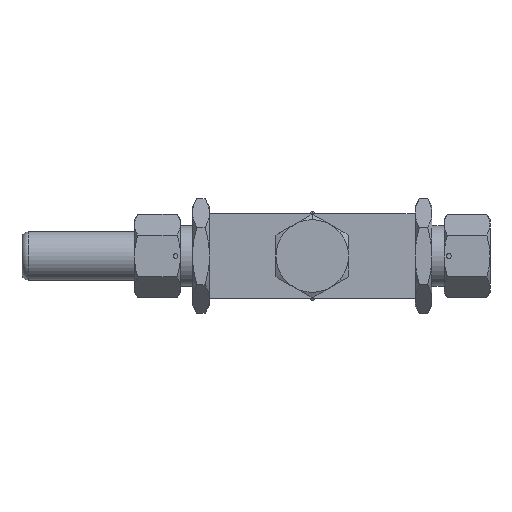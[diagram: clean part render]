
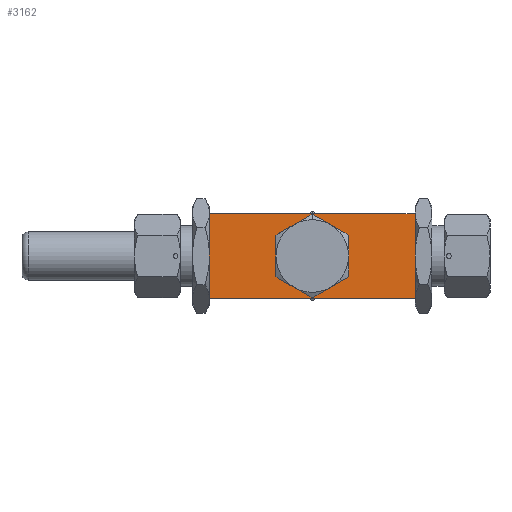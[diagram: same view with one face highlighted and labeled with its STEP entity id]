
A CAD part, front view. The second image highlights one B-rep face of the part: STEP entity #3162.
In plain terms, the highlighted planar face has unit normal (0, -1, 0).
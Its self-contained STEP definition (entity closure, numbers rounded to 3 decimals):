
#150 = CARTESIAN_POINT ( 'NONE',  ( 7.5, -32.5, -12.99 ) ) ;
#185 = DIRECTION ( 'NONE',  ( 0., 0., -1. ) ) ;
#189 = EDGE_CURVE ( 'NONE', #5895, #2622, #1579, .T. ) ;
#241 = AXIS2_PLACEMENT_3D ( 'NONE', #3808, #2277, #2186 ) ;
#296 = DIRECTION ( 'NONE',  ( 0., -1., 0. ) ) ;
#321 = PLANE ( 'NONE',  #5505 ) ;
#347 = CARTESIAN_POINT ( 'NONE',  ( -15., -32.5, 0. ) ) ;
#362 = FACE_BOUND ( 'NONE', #1242, .T. ) ;
#370 = CARTESIAN_POINT ( 'NONE',  ( -42.5, -32.5, 17.5 ) ) ;
#388 = ORIENTED_EDGE ( 'NONE', *, *, #4609, .F. ) ;
#422 = CARTESIAN_POINT ( 'NONE',  ( 42.5, -32.5, 17.5 ) ) ;
#470 = CIRCLE ( 'NONE', #241, 15. ) ;
#565 = CARTESIAN_POINT ( 'NONE',  ( 0., -32.5, 0. ) ) ;
#658 = ORIENTED_EDGE ( 'NONE', *, *, #5278, .T. ) ;
#700 = CARTESIAN_POINT ( 'NONE',  ( 0., -32.5, 0. ) ) ;
#731 = EDGE_CURVE ( 'NONE', #5678, #3883, #4653, .T. ) ;
#796 = DIRECTION ( 'NONE',  ( 0., 0., 1. ) ) ;
#818 = DIRECTION ( 'NONE',  ( 0., -1., 0. ) ) ;
#833 = ORIENTED_EDGE ( 'NONE', *, *, #3568, .F. ) ;
#876 = VECTOR ( 'NONE', #5578, 1000. ) ;
#879 = EDGE_CURVE ( 'NONE', #3577, #6365, #4544, .T. ) ;
#896 = DIRECTION ( 'NONE',  ( 0., 1., 0. ) ) ;
#910 = VECTOR ( 'NONE', #3368, 1000. ) ;
#955 = CARTESIAN_POINT ( 'NONE',  ( -7.5, -32.5, -12.99 ) ) ;
#982 = VERTEX_POINT ( 'NONE', #5788 ) ;
#1028 = DIRECTION ( 'NONE',  ( 0., 0., -1. ) ) ;
#1065 = ORIENTED_EDGE ( 'NONE', *, *, #5363, .F. ) ;
#1171 = ORIENTED_EDGE ( 'NONE', *, *, #879, .F. ) ;
#1211 = AXIS2_PLACEMENT_3D ( 'NONE', #1385, #818, #4833 ) ;
#1242 = EDGE_LOOP ( 'NONE', ( #4364, #4513, #388, #3025, #1065, #1171, #833 ) ) ;
#1378 = EDGE_LOOP ( 'NONE', ( #658, #5011, #2046, #3398 ) ) ;
#1385 = CARTESIAN_POINT ( 'NONE',  ( 0., -32.5, 0. ) ) ;
#1409 = VECTOR ( 'NONE', #2461, 1000. ) ;
#1530 = AXIS2_PLACEMENT_3D ( 'NONE', #700, #2201, #185 ) ;
#1548 = DIRECTION ( 'NONE',  ( 0., -1., 0. ) ) ;
#1554 = VECTOR ( 'NONE', #4355, 1000. ) ;
#1579 = LINE ( 'NONE', #4463, #1409 ) ;
#1585 = CARTESIAN_POINT ( 'NONE',  ( 42.5, -32.5, -17.5 ) ) ;
#1935 = CARTESIAN_POINT ( 'NONE',  ( -42.5, -32.5, -17.5 ) ) ;
#1963 = CARTESIAN_POINT ( 'NONE',  ( -42.5, -32.5, 17.5 ) ) ;
#2036 = EDGE_CURVE ( 'NONE', #982, #5678, #3028, .T. ) ;
#2046 = ORIENTED_EDGE ( 'NONE', *, *, #189, .F. ) ;
#2083 = EDGE_CURVE ( 'NONE', #5895, #4476, #3867, .T. ) ;
#2171 = AXIS2_PLACEMENT_3D ( 'NONE', #3112, #4740, #3241 ) ;
#2186 = DIRECTION ( 'NONE',  ( 0., 0., -1. ) ) ;
#2201 = DIRECTION ( 'NONE',  ( 0., -1., 0. ) ) ;
#2245 = CARTESIAN_POINT ( 'NONE',  ( 7.5, -32.5, 12.99 ) ) ;
#2277 = DIRECTION ( 'NONE',  ( 0., -1., 0. ) ) ;
#2279 = DIRECTION ( 'NONE',  ( 0., 0., -1. ) ) ;
#2461 = DIRECTION ( 'NONE',  ( 1., 0., 0. ) ) ;
#2526 = LINE ( 'NONE', #4940, #876 ) ;
#2622 = VERTEX_POINT ( 'NONE', #4970 ) ;
#2738 = VERTEX_POINT ( 'NONE', #150 ) ;
#2877 = CIRCLE ( 'NONE', #1530, 15. ) ;
#3025 = ORIENTED_EDGE ( 'NONE', *, *, #3433, .F. ) ;
#3028 = CIRCLE ( 'NONE', #4710, 15. ) ;
#3051 = CARTESIAN_POINT ( 'NONE',  ( 0., -32.5, 0. ) ) ;
#3112 = CARTESIAN_POINT ( 'NONE',  ( 0., -32.5, 0. ) ) ;
#3138 = VERTEX_POINT ( 'NONE', #5901 ) ;
#3162 = ADVANCED_FACE ( 'NONE', ( #3869, #362 ), #321, .F. ) ;
#3164 = DIRECTION ( 'NONE',  ( 0., -1., 0. ) ) ;
#3241 = DIRECTION ( 'NONE',  ( 0., 0., -1. ) ) ;
#3368 = DIRECTION ( 'NONE',  ( 0., 0., -1. ) ) ;
#3398 = ORIENTED_EDGE ( 'NONE', *, *, #2083, .T. ) ;
#3433 = EDGE_CURVE ( 'NONE', #3138, #2738, #2877, .T. ) ;
#3568 = EDGE_CURVE ( 'NONE', #3883, #3577, #6253, .T. ) ;
#3577 = VERTEX_POINT ( 'NONE', #347 ) ;
#3808 = CARTESIAN_POINT ( 'NONE',  ( 0., -32.5, 0. ) ) ;
#3867 = LINE ( 'NONE', #4422, #910 ) ;
#3869 = FACE_OUTER_BOUND ( 'NONE', #1378, .T. ) ;
#3883 = VERTEX_POINT ( 'NONE', #5052 ) ;
#4118 = AXIS2_PLACEMENT_3D ( 'NONE', #5235, #3164, #5732 ) ;
#4326 = AXIS2_PLACEMENT_3D ( 'NONE', #3051, #1548, #1028 ) ;
#4355 = DIRECTION ( 'NONE',  ( 0., 0., -1. ) ) ;
#4364 = ORIENTED_EDGE ( 'NONE', *, *, #731, .F. ) ;
#4390 = LINE ( 'NONE', #422, #1554 ) ;
#4422 = CARTESIAN_POINT ( 'NONE',  ( -42.5, -32.5, 17.5 ) ) ;
#4463 = CARTESIAN_POINT ( 'NONE',  ( -42.5, -32.5, 17.5 ) ) ;
#4476 = VERTEX_POINT ( 'NONE', #1935 ) ;
#4513 = ORIENTED_EDGE ( 'NONE', *, *, #2036, .F. ) ;
#4544 = CIRCLE ( 'NONE', #4118, 15. ) ;
#4609 = EDGE_CURVE ( 'NONE', #2738, #982, #470, .T. ) ;
#4653 = CIRCLE ( 'NONE', #4326, 15. ) ;
#4710 = AXIS2_PLACEMENT_3D ( 'NONE', #565, #296, #2279 ) ;
#4740 = DIRECTION ( 'NONE',  ( 0., -1., 0. ) ) ;
#4833 = DIRECTION ( 'NONE',  ( 0., 0., -1. ) ) ;
#4940 = CARTESIAN_POINT ( 'NONE',  ( -42.5, -32.5, -17.5 ) ) ;
#4970 = CARTESIAN_POINT ( 'NONE',  ( 42.5, -32.5, 17.5 ) ) ;
#5011 = ORIENTED_EDGE ( 'NONE', *, *, #6292, .F. ) ;
#5052 = CARTESIAN_POINT ( 'NONE',  ( -7.5, -32.5, 12.99 ) ) ;
#5235 = CARTESIAN_POINT ( 'NONE',  ( 0., -32.5, 0. ) ) ;
#5278 = EDGE_CURVE ( 'NONE', #4476, #6017, #2526, .T. ) ;
#5363 = EDGE_CURVE ( 'NONE', #6365, #3138, #6461, .T. ) ;
#5505 = AXIS2_PLACEMENT_3D ( 'NONE', #1963, #896, #796 ) ;
#5578 = DIRECTION ( 'NONE',  ( 1., 0., 0. ) ) ;
#5678 = VERTEX_POINT ( 'NONE', #2245 ) ;
#5732 = DIRECTION ( 'NONE',  ( 0., 0., -1. ) ) ;
#5788 = CARTESIAN_POINT ( 'NONE',  ( 15., -32.5, 0. ) ) ;
#5895 = VERTEX_POINT ( 'NONE', #370 ) ;
#5901 = CARTESIAN_POINT ( 'NONE',  ( 0., -32.5, -15. ) ) ;
#6017 = VERTEX_POINT ( 'NONE', #1585 ) ;
#6253 = CIRCLE ( 'NONE', #1211, 15. ) ;
#6292 = EDGE_CURVE ( 'NONE', #2622, #6017, #4390, .T. ) ;
#6365 = VERTEX_POINT ( 'NONE', #955 ) ;
#6461 = CIRCLE ( 'NONE', #2171, 15. ) ;
